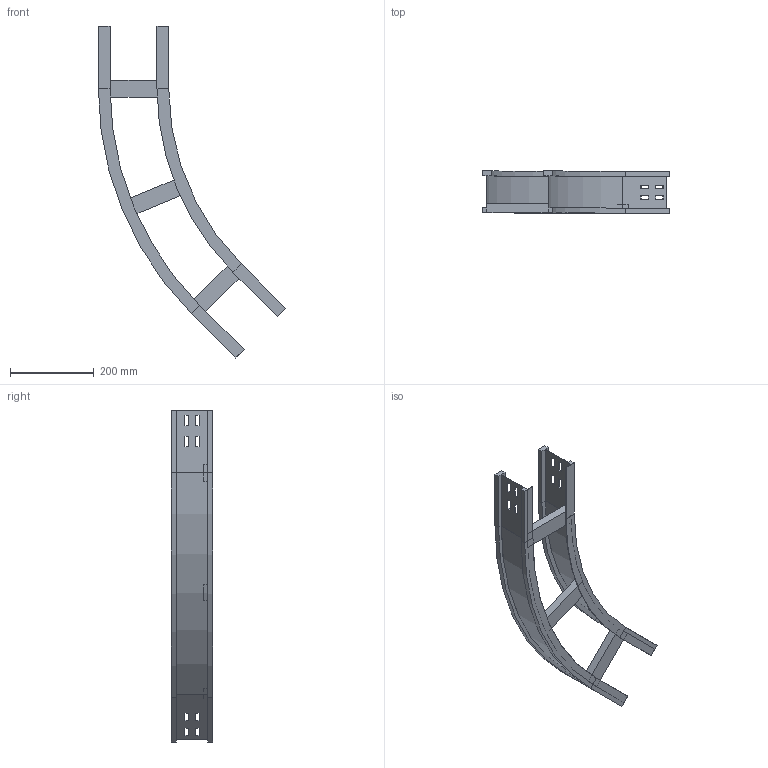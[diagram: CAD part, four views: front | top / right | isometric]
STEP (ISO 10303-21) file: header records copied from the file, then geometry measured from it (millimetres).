
FILE_DESCRIPTION (( 'STEP AP214' ), '1' );
FILE_NAME ('11S6D150.step', '2025-02-21T16:03:33', ( '' ), ( '' ), 'SwSTEP 2.0', 'SolidWorks 2023', '' );
FILE_SCHEMA (( 'AUTOMOTIVE_DESIGN' ));
Length unit declared in the file: millimetre
Products named in the file (4): LONGH.ESTERNO 45°_H100_R600+150; 11S6D150; TRAVERSINO_150; LONGH.INTERNO 45°_H100_R600
Assembly tree (5 placements, depth 2):
  11S6D150
    LONGH.INTERNO 45°_H100_R600
    LONGH.ESTERNO 45°_H100_R600+150
    TRAVERSINO_150  x3
Bounding box: 447.17 x 100 x 792.76 mm (x, y, z)
Volume: 1232177.5 mm3; surface area: 547879.4 mm2
Topology: 5 solids, 5 shells, 158 faces, 396 edges, 248 vertices
Faces by surface type: plane 146, cylinder 12
Entity records: 4477 total; most frequent: CARTESIAN_POINT 758, ORIENTED_EDGE 744, DIRECTION 704, EDGE_CURVE 372, LINE 348, VECTOR 348, VERTEX_POINT 232, AXIS2_PLACEMENT_3D 178
